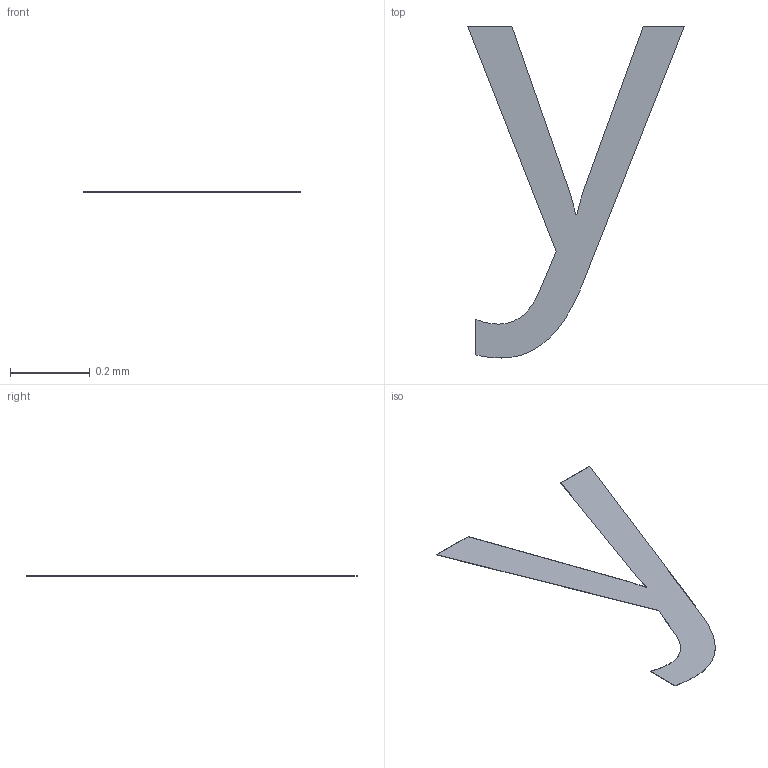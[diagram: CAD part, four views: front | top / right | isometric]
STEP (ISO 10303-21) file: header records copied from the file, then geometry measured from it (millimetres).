
FILE_DESCRIPTION(/* description */ ('STEP AP242 Edition 2','CAx-IF Rec.Pracs.---Representation and Presentation of Product Manufacturing Information (PMI)---4.0---2014-10-13','CAx-IF Rec.Pracs.---3D Tessellated Geometry---0.4---2014-09-14','2;1','CAx-IF Rec.Pracs.---User Defined Attributes---1.5---2016-08-15'),/* implementation_level */ '2;1');
FILE_NAME(/* name */ 'Assembly 1 - I2CLCD16X2~MODULE-TH_LCM1602K~nxQB (1)',/* time_stamp */ '2026-04-02T09:55:14Z',/* author */ (''),/* organization */ (''),/* preprocessor_version */ 'ST-DEVELOPER v20',/* originating_system */ 'ONSHAPE BY PTC INC, 1.212',/* authorisation */ ' ');
FILE_SCHEMA (('AP242_MANAGED_MODEL_BASED_3D_ENGINEERING_MIM_LF { 1 0 10303 442 3 1 4 }'));
Length unit declared in the file: metre
Products named in the file (1): I2CLCD16X2~MODULE-TH_LCM1602K~nxQB
Bounding box: 0.54 x 0.83 x 0 mm (x, y, z)
Volume: 0 mm3; surface area: 0.3 mm2
Topology: 1 solids, 1 shells, 17 faces, 45 edges, 30 vertices
Faces by surface type: plane 12, bspline 5
Entity records: 691 total; most frequent: CARTESIAN_POINT 158, ORIENTED_EDGE 90, DIRECTION 61, EDGE_CURVE 45, LINE 35, VECTOR 35, VERTEX_POINT 30, PRESENTATION_STYLE_ASSIGNMENT 18
